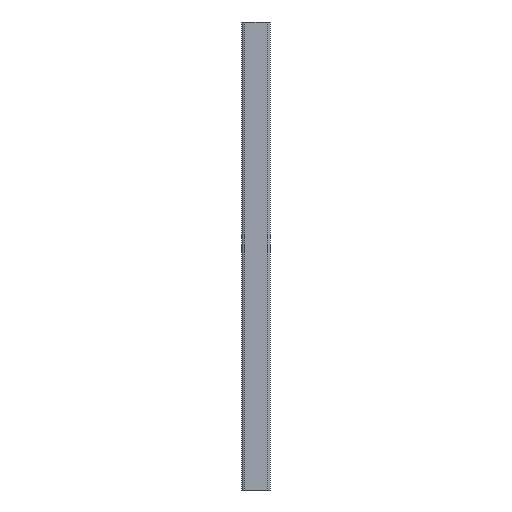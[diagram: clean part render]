
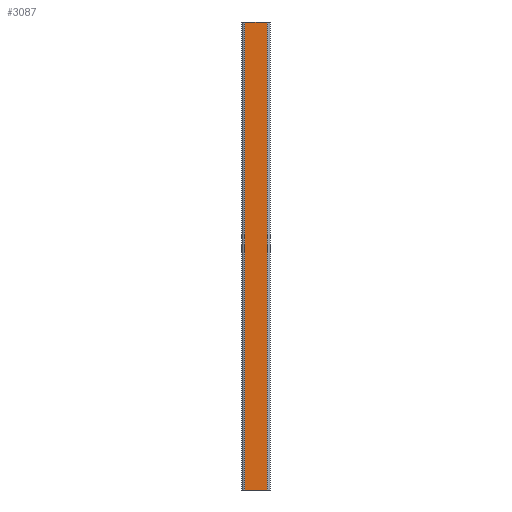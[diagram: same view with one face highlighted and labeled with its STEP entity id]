
A CAD part, front view. The second image highlights one B-rep face of the part: STEP entity #3087.
In plain terms, the highlighted planar face has unit normal (0, -1, 0).
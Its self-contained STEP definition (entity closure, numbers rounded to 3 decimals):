
#137 = DIRECTION ( 'NONE',  ( 0., -1., 0. ) ) ;
#243 = EDGE_CURVE ( 'NONE', #2941, #4058, #1958, .T. ) ;
#273 = CARTESIAN_POINT ( 'NONE',  ( -12., -15., -250. ) ) ;
#320 = DIRECTION ( 'NONE',  ( -1., 0., 0. ) ) ;
#443 = FACE_OUTER_BOUND ( 'NONE', #5335, .T. ) ;
#624 = LINE ( 'NONE', #3947, #3117 ) ;
#760 = CARTESIAN_POINT ( 'NONE',  ( -15., -15., -250. ) ) ;
#1138 = DIRECTION ( 'NONE',  ( 0., 0., 1. ) ) ;
#1214 = EDGE_CURVE ( 'NONE', #2941, #4346, #3212, .T. ) ;
#1397 = PLANE ( 'NONE',  #4408 ) ;
#1606 = ORIENTED_EDGE ( 'NONE', *, *, #243, .F. ) ;
#1722 = VECTOR ( 'NONE', #3790, 1000. ) ;
#1884 = EDGE_CURVE ( 'NONE', #4956, #4346, #3337, .T. ) ;
#1958 = LINE ( 'NONE', #760, #3049 ) ;
#2149 = CARTESIAN_POINT ( 'NONE',  ( -15., -15., 250. ) ) ;
#2901 = CARTESIAN_POINT ( 'NONE',  ( 12., -15., -250. ) ) ;
#2941 = VERTEX_POINT ( 'NONE', #2901 ) ;
#3023 = CARTESIAN_POINT ( 'NONE',  ( -15., -15., -292.426 ) ) ;
#3049 = VECTOR ( 'NONE', #320, 1000. ) ;
#3087 = ADVANCED_FACE ( 'NONE', ( #443 ), #1397, .T. ) ;
#3117 = VECTOR ( 'NONE', #4013, 1000. ) ;
#3212 = LINE ( 'NONE', #3701, #4523 ) ;
#3337 = LINE ( 'NONE', #2149, #1722 ) ;
#3649 = EDGE_CURVE ( 'NONE', #4058, #4956, #624, .T. ) ;
#3666 = CARTESIAN_POINT ( 'NONE',  ( -12., -15., 250. ) ) ;
#3701 = CARTESIAN_POINT ( 'NONE',  ( 12., -15., -250. ) ) ;
#3790 = DIRECTION ( 'NONE',  ( 1., 0., 0. ) ) ;
#3796 = CARTESIAN_POINT ( 'NONE',  ( 12., -15., 250. ) ) ;
#3843 = ORIENTED_EDGE ( 'NONE', *, *, #1884, .F. ) ;
#3947 = CARTESIAN_POINT ( 'NONE',  ( -12., -15., -250. ) ) ;
#4013 = DIRECTION ( 'NONE',  ( 0., 0., 1. ) ) ;
#4058 = VERTEX_POINT ( 'NONE', #273 ) ;
#4346 = VERTEX_POINT ( 'NONE', #3796 ) ;
#4408 = AXIS2_PLACEMENT_3D ( 'NONE', #3023, #137, #4651 ) ;
#4523 = VECTOR ( 'NONE', #1138, 1000. ) ;
#4651 = DIRECTION ( 'NONE',  ( 1., 0., 0. ) ) ;
#4679 = ORIENTED_EDGE ( 'NONE', *, *, #3649, .F. ) ;
#4956 = VERTEX_POINT ( 'NONE', #3666 ) ;
#5282 = ORIENTED_EDGE ( 'NONE', *, *, #1214, .T. ) ;
#5335 = EDGE_LOOP ( 'NONE', ( #1606, #5282, #3843, #4679 ) ) ;
